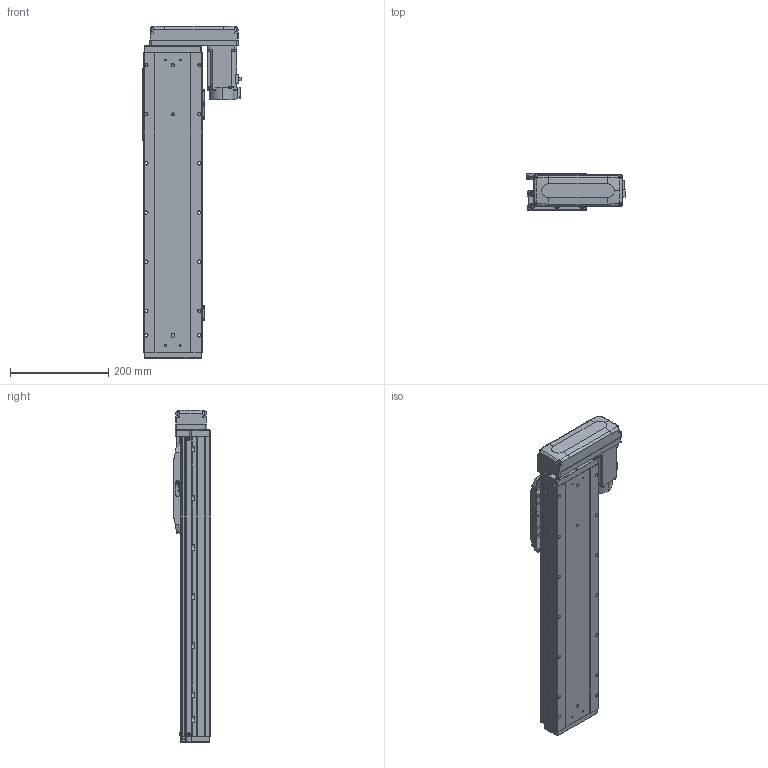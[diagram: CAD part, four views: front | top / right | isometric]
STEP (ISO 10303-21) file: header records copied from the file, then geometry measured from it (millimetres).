
FILE_DESCRIPTION (( 'STEP AP203' ), '1' );
FILE_NAME ('GTH12-400-BL-M40-C4.step', '2023-07-04T10:40:26', ( '微软用户' ), ( '微软中国' ), 'SwSTEP 2.0', 'SolidWorks 2020', '' );
FILE_SCHEMA (( 'CONFIG_CONTROL_DESIGN' ));
Length unit declared in the file: millimetre
Products named in the file (18): GTH120-006; GTH80-028; GTH120-027-1_GTH120-027-2; GTH120-004; GTH50-023; GTH12-400-BL-M40-C4; GTH120-013; GTH50-024; GBT 70.1-M3℅6; GBT96.1-2002 3×0.8; GBT 70.1-M5×16; BTH-M3X5X6; GTH120-001_400; GBT 70.3-M3℅8; hg-kn43j_-s100_; GTH120-003; GTH80-022; CTHA86-033_M40B
Assembly tree (59 placements, depth 2):
  GTH12-400-BL-M40-C4
    GTH120-001_400
    GTH120-003
    GTH120-006
    GTH120-004
    GTH120-013
    GBT 70.1-M3℅6  x14
    GBT 70.1-M5×16  x10
    GBT 70.3-M3℅8  x4
    GTH80-022
    GTH80-028  x2
    GTH50-023  x3
    GTH50-024  x3
    GBT96.1-2002 3×0.8  x6
    BTH-M3X5X6  x8
    hg-kn43j_-s100_
    CTHA86-033_M40B
    GTH120-027-1_GTH120-027-2
Bounding box: 199.8 x 76 x 675.5 mm (x, y, z)
Volume: 5256316.9 mm3; surface area: 532157 mm2
Topology: 61 solids, 61 shells, 2405 faces, 5594 edges, 3431 vertices
Faces by surface type: plane 1246, cylinder 687, cone 284, torus 174, sphere 8, bspline 6
Entity records: 44380 total; most frequent: CARTESIAN_POINT 7516, DIRECTION 7326, ORIENTED_EDGE 6798, EDGE_CURVE 3399, AXIS2_PLACEMENT_3D 2562, LINE 2202, VECTOR 2202, VERTEX_POINT 2152
